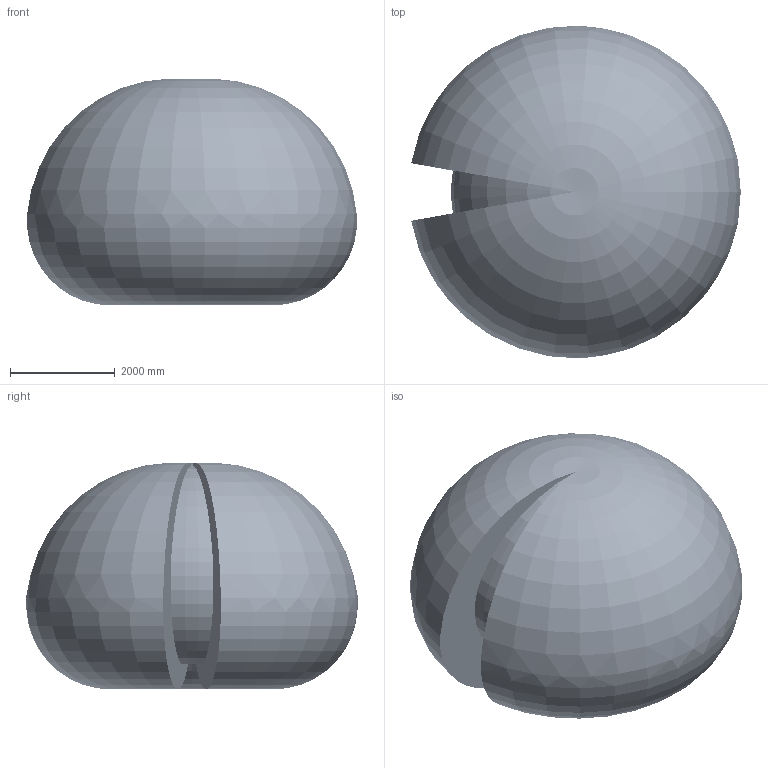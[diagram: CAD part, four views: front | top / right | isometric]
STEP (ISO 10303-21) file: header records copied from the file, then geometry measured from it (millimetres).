
FILE_DESCRIPTION (( 'STEP AP214' ), '1' );
FILE_NAME ('IRB6740_240kg-320_OC_01_ASM_CAD.step', '2026-05-13T05:03:51', ( '' ), ( '' ), 'SwSTEP 2.0', 'SolidWorks 2024', '' );
FILE_SCHEMA (( 'AUTOMOTIVE_DESIGN' ));
Length unit declared in the file: millimetre
Products named in the file (14): IRB6740_240kg-320_OC_00_LINK04_CAD; IRB6740_240kg-320_OC_01_ASM_CAD; IRB6740_240kg-320_OC_00_LINK02m_CABLE; IRB6740_240kg-320_OC_00_LINK06_CAD; IRB6740_240kg-320_OC_00_LINK03m_CABLE; IRB6740_240kg-320_OC_00_LINK03_CAD; IRB6740_240kg-320_OC_00_LINK01m_CABLE; IRB6740_240kg-320_OC_00_LINK01_CAD; IRB6740_240kg-320_OC_00_CYL_CAD; IRB6740_240kg-320_OC_00_BASE_CAD; IRB6740_240kg-320_OC_00_LINK02_CAD; IRB6740_240kg-320_OC_00_Working-space; IRB6740_240kg-320_OC_00_ROD_CAD; IRB6740_240kg-320_OC_01_LINK05_CAD
Assembly tree (13 placements, depth 2):
  IRB6740_240kg-320_OC_01_ASM_CAD
    IRB6740_240kg-320_OC_00_BASE_CAD
    IRB6740_240kg-320_OC_00_CYL_CAD
    IRB6740_240kg-320_OC_00_LINK01_CAD
    IRB6740_240kg-320_OC_00_LINK02_CAD
    IRB6740_240kg-320_OC_00_LINK03_CAD
    IRB6740_240kg-320_OC_00_LINK04_CAD
    IRB6740_240kg-320_OC_00_LINK06_CAD
    IRB6740_240kg-320_OC_00_ROD_CAD
    IRB6740_240kg-320_OC_00_LINK01m_CABLE
    IRB6740_240kg-320_OC_00_LINK02m_CABLE
    IRB6740_240kg-320_OC_00_LINK03m_CABLE
    IRB6740_240kg-320_OC_00_Working-space
    IRB6740_240kg-320_OC_01_LINK05_CAD
Bounding box: 6292.4 x 6338.48 x 4326.27 mm (x, y, z)
Volume: 90064110356.1 mm3; surface area: 146484422.4 mm2
Topology: 14 solids, 37 shells, 6989 faces, 18012 edges, 11661 vertices
Faces by surface type: plane 3877, cylinder 1432, cone 865, bspline 537, torus 238, sphere 40
Full cylindrical faces by diameter (mm): 2.5 x1, 3.3 x1, 5 x13, 5.2 x4, 5.45 x1, 6.351 x2, 6.6 x4, 6.8 x21, 7 x8, 8 x2, 8.3 x2, 8.5 x17, 9.5 x4, 10 x23, 10.2 x17, 10.22 x24, 10.5 x1, 11 x2, 11.05 x2, 12 x35, 12.5 x2, 13 x15, 13.27 x24, 14 x3, 16 x5, 16.27 x8, 17 x7, 17.4 x2, 17.5 x8, 17.7 x3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
Entity records: 369208 total; most frequent: CARTESIAN_POINT 137639, ORIENTED_EDGE 32818, DIRECTION 29273, EDGE_CURVE 16409, VERTEX_POINT 11176, AXIS2_PLACEMENT_3D 10648, EDGE_LOOP 8785, LINE 7977
